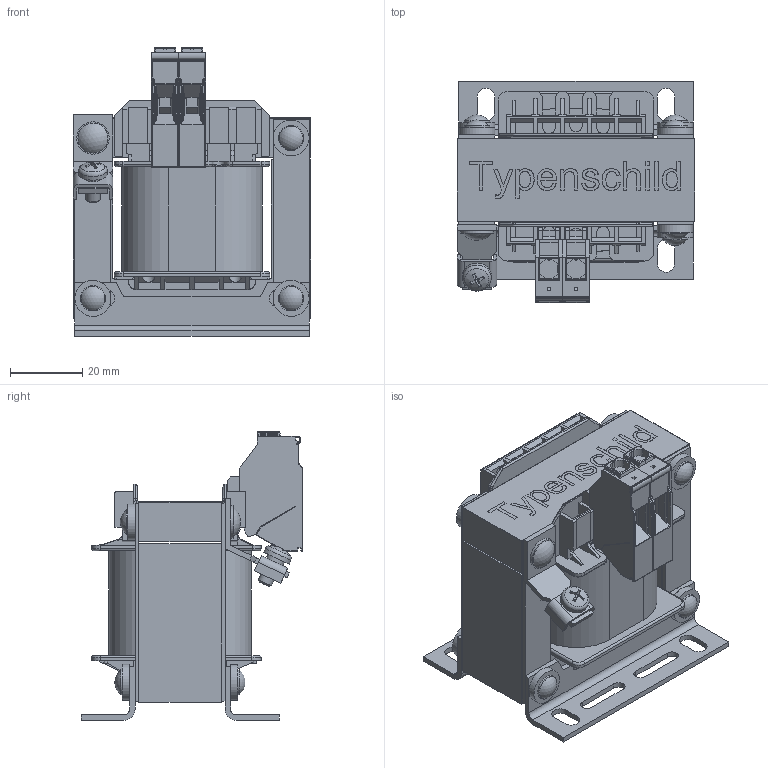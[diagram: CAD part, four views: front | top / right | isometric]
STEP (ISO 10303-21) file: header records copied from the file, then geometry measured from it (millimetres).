
FILE_DESCRIPTION(/* description */ (''),/* implementation_level */ '2;1');
FILE_NAME(/* name */ 'DEG0,03 10A.stp',/* time_stamp */ '2023-09-20T16:11:29+02:00',/* author */ ('EnneJ'),/* organization */ (''),/* preprocessor_version */ 'ST-DEVELOPER v19.2',/* originating_system */ 'Autodesk Inventor 2023',/* authorisation */ '');
FILE_SCHEMA (('AUTOMOTIVE_DESIGN { 1 0 10303 214 3 1 1 }'));
Products named in the file (18): X0001 DE 002; Norm (DIN); Norm (DIN)_1; EI66a_23_AK; Norm (DIN)_2; BFW 01 001; Erdung 45° Loch 8,2; Bauteil2; erd 90 001; M4-8; Leistungsschild 66x23 klein; 1222_TKS_4_1; Norm (DIN)_3; IFI 520 - 47; Arzner Gr 3; DIN 125 - A 3,2; IFI 520 - 54; DIN 125 - A 4,3
Assembly tree (40 placements, depth 3):
  X0001 DE 002
    Norm (DIN)
    Norm (DIN)_1
    EI66a_23_AK
    Norm (DIN)_2
    BFW 01 001  x2
    Erdung 45° Loch 8,2
      Bauteil2
      erd 90 001
      M4-8
    1222_TKS_4_1  x2
    Leistungsschild 66x23 klein
    Norm (DIN)_3  x4
    Arzner Gr 3  x7
    DIN 125 - A 3,2  x7
    IFI 520 - 47  x7
    IFI 520 - 54
    DIN 125 - A 4,3
Bounding box: 66 x 61.6 x 80.05 mm (x, y, z)
Volume: 114192.6 mm3; surface area: 72914.1 mm2
Topology: 39 solids, 39 shells, 3645 faces, 9970 edges, 6506 vertices
Faces by surface type: plane 2906, cylinder 449, bspline 174, torus 95, cone 12, sphere 9
Full cylindrical faces by diameter (mm): 3.2 x21, 3.242 x1, 3.621 x1, 4 x3, 4.3 x8, 4.5 x4, 5 x1, 7 x7, 8.2 x1, 9 x1, 10 x7
Entity records: 70107 total; most frequent: CARTESIAN_POINT 15406, ORIENTED_EDGE 11662, DIRECTION 10462, EDGE_CURVE 5831, LINE 4858, VECTOR 4858, VERTEX_POINT 3791, AXIS2_PLACEMENT_3D 2802
